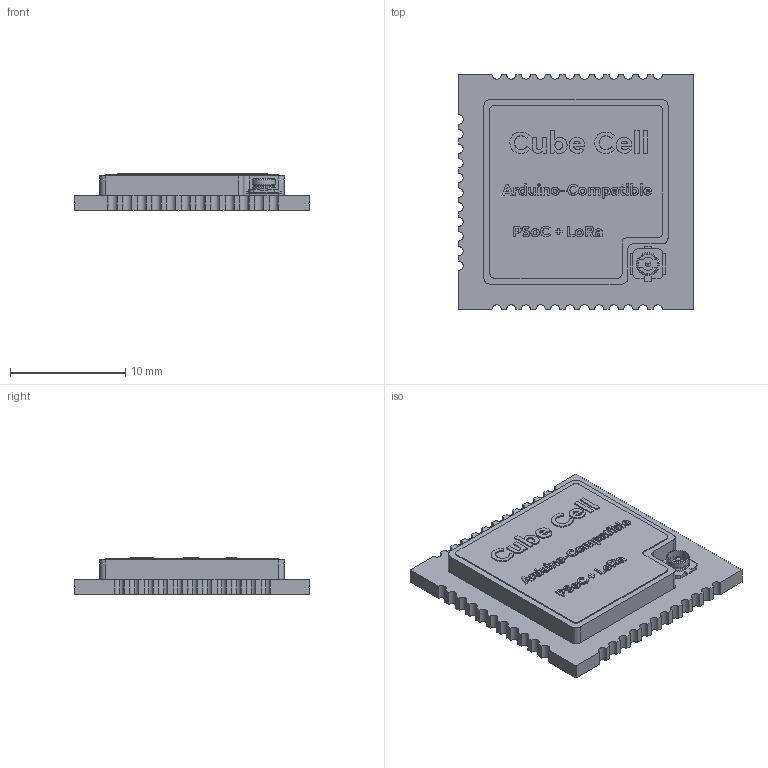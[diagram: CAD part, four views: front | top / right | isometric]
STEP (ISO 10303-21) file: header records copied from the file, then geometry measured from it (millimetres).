
FILE_DESCRIPTION(('FreeCAD Model'),'2;1');
FILE_NAME('Open CASCADE Shape Model','2022-04-10T20:59:42',( 'kicad StepUp'),('ksu MCAD'),'Open CASCADE STEP processor 7.5', 'FreeCAD','Unknown');
FILE_SCHEMA(('AUTOMOTIVE_DESIGN { 1 0 10303 214 1 1 1 1 }'));
Length unit declared in the file: millimetre
Products named in the file (1): HTCC-AM02_arm_2022_04_v3
Bounding box: 20.4 x 20.4 x 3.2 mm (x, y, z)
Volume: 966.6 mm3; surface area: 1137.9 mm2
Topology: 38 solids, 39 shells, 892 faces, 2415 edges, 1597 vertices
Faces by surface type: extrusion 445, plane 357, cylinder 82, cone 6, revolution 2
Entity records: 29782 total; most frequent: CARTESIAN_POINT 7573, ORIENTED_EDGE 4804, DIRECTION 3019, EDGE_CURVE 2402, VECTOR 1785, VERTEX_POINT 1596, LINE 1340, B_SPLINE_CURVE_WITH_KNOTS 1337
